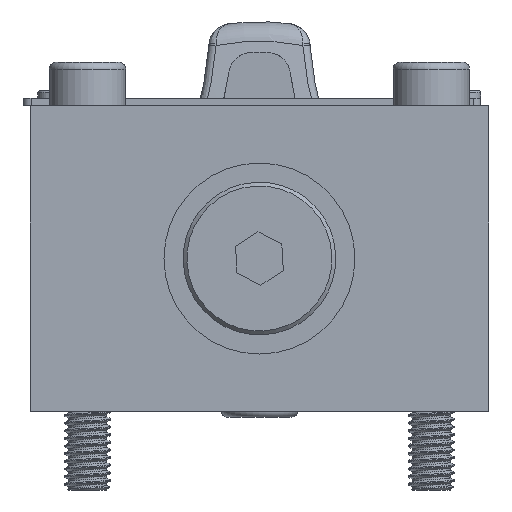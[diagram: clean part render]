
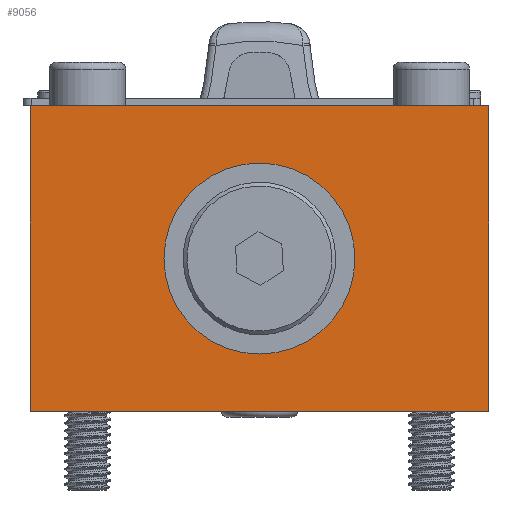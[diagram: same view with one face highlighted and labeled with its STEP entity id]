
A CAD part, front view. The second image highlights one B-rep face of the part: STEP entity #9056.
In plain terms, the highlighted planar face has unit normal (0, -1, 0).
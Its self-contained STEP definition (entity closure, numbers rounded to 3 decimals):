
#1659=LINE('',#62096,#2143);
#1676=LINE('',#62313,#2160);
#1677=LINE('',#62317,#2161);
#1678=LINE('',#62319,#2162);
#2143=VECTOR('',#14078,1.);
#2160=VECTOR('',#14131,1.);
#2161=VECTOR('',#14136,1.);
#2162=VECTOR('',#14137,1.);
#2549=PLANE('',#11654);
#3364=EDGE_LOOP('',(#5940));
#3365=EDGE_LOOP('',(#5941,#5942,#5943,#5944));
#5940=ORIENTED_EDGE('',*,*,#7548,.F.);
#5941=ORIENTED_EDGE('',*,*,#7549,.F.);
#5942=ORIENTED_EDGE('',*,*,#7547,.F.);
#5943=ORIENTED_EDGE('',*,*,#7510,.T.);
#5944=ORIENTED_EDGE('',*,*,#7550,.T.);
#7510=EDGE_CURVE('',#10539,#10541,#1659,.T.);
#7547=EDGE_CURVE('',#10539,#10576,#1676,.T.);
#7548=EDGE_CURVE('',#10577,#10577,#8103,.T.);
#7549=EDGE_CURVE('',#10576,#10578,#1677,.T.);
#7550=EDGE_CURVE('',#10541,#10578,#1678,.T.);
#8103=CIRCLE('',#11653,12.5);
#9056=ADVANCED_FACE('',(#9594,#9595),#2549,.T.);
#9594=FACE_BOUND('',#3364,.T.);
#9595=FACE_BOUND('',#3365,.T.);
#10539=VERTEX_POINT('',#62091);
#10541=VERTEX_POINT('',#62095);
#10576=VERTEX_POINT('',#62312);
#10577=VERTEX_POINT('',#62316);
#10578=VERTEX_POINT('',#62318);
#11653=AXIS2_PLACEMENT_3D('',#62315,#14134,#14135);
#11654=AXIS2_PLACEMENT_3D('',#62320,#14138,#14139);
#14078=DIRECTION('',(0.,0.,1.));
#14131=DIRECTION('',(-1.,0.,0.));
#14134=DIRECTION('',(0.,-1.,0.));
#14135=DIRECTION('',(1.,0.,0.));
#14136=DIRECTION('',(0.,0.,1.));
#14137=DIRECTION('',(-1.,0.,0.));
#14138=DIRECTION('',(0.,-1.,0.));
#14139=DIRECTION('',(1.,0.,0.));
#62091=CARTESIAN_POINT('',(37.801,-78.308,-20.));
#62095=CARTESIAN_POINT('',(37.801,-78.308,20.));
#62096=CARTESIAN_POINT('',(37.801,-78.308,-20.));
#62312=CARTESIAN_POINT('',(-22.199,-78.308,-20.));
#62313=CARTESIAN_POINT('',(37.801,-78.308,-20.));
#62315=CARTESIAN_POINT('',(7.801,-78.308,0.));
#62316=CARTESIAN_POINT('',(20.301,-78.308,0.));
#62317=CARTESIAN_POINT('',(-22.199,-78.308,-20.));
#62318=CARTESIAN_POINT('',(-22.199,-78.308,20.));
#62319=CARTESIAN_POINT('',(37.801,-78.308,20.));
#62320=CARTESIAN_POINT('',(37.801,-78.308,-20.));
